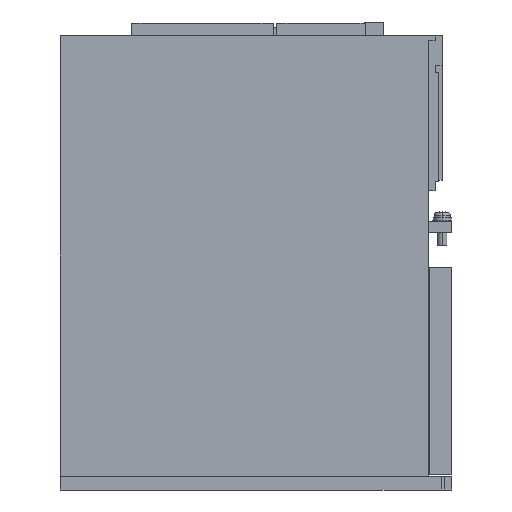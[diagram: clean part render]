
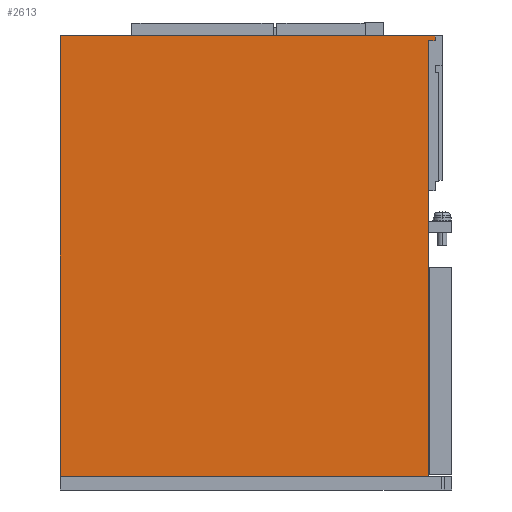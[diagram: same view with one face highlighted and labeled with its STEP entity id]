
A CAD part, left-side view. The second image highlights one B-rep face of the part: STEP entity #2613.
In plain terms, the highlighted planar face has unit normal (-1, 0, 0).
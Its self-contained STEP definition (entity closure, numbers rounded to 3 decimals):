
#956=DIRECTION('',(0.,-1.,0.));
#957=VECTOR('',#956,158.);
#958=CARTESIAN_POINT('',(-42.5,84.,0.));
#959=LINE('',#958,#957);
#1004=DIRECTION('',(0.,0.,1.));
#1005=VECTOR('',#1004,187.);
#1006=CARTESIAN_POINT('',(-42.5,-74.,0.));
#1007=LINE('',#1006,#1005);
#1008=DIRECTION('',(0.,0.,1.));
#1009=VECTOR('',#1008,189.);
#1010=CARTESIAN_POINT('',(-42.5,84.,0.));
#1011=LINE('',#1010,#1009);
#1096=DIRECTION('',(0.,1.,0.));
#1097=VECTOR('',#1096,161.);
#1098=CARTESIAN_POINT('',(-42.5,-77.,189.));
#1099=LINE('',#1098,#1097);
#1600=DIRECTION('',(0.,0.,-1.));
#1601=VECTOR('',#1600,2.);
#1602=CARTESIAN_POINT('',(-42.5,-77.,189.));
#1603=LINE('',#1602,#1601);
#1716=DIRECTION('',(0.,-1.,0.));
#1717=VECTOR('',#1716,3.);
#1718=CARTESIAN_POINT('',(-42.5,-74.,187.));
#1719=LINE('',#1718,#1717);
#2100=CARTESIAN_POINT('',(-42.5,84.,0.));
#2101=CARTESIAN_POINT('',(-42.5,84.,189.));
#2102=VERTEX_POINT('',#2100);
#2103=VERTEX_POINT('',#2101);
#2104=CARTESIAN_POINT('',(-42.5,-74.,0.));
#2105=VERTEX_POINT('',#2104);
#2182=CARTESIAN_POINT('',(-42.5,-77.,189.));
#2183=CARTESIAN_POINT('',(-42.5,-77.,187.));
#2184=VERTEX_POINT('',#2182);
#2185=VERTEX_POINT('',#2183);
#2194=CARTESIAN_POINT('',(-42.5,-74.,187.));
#2196=VERTEX_POINT('',#2194);
#2596=CARTESIAN_POINT('',(-42.5,84.,0.));
#2597=DIRECTION('',(-1.,0.,0.));
#2598=DIRECTION('',(0.,-1.,0.));
#2599=AXIS2_PLACEMENT_3D('',#2596,#2597,#2598);
#2600=PLANE('',#2599);
#2602=ORIENTED_EDGE('',*,*,#2601,.F.);
#2604=ORIENTED_EDGE('',*,*,#2603,.T.);
#2606=ORIENTED_EDGE('',*,*,#2605,.F.);
#2607=ORIENTED_EDGE('',*,*,#2570,.F.);
#2608=ORIENTED_EDGE('',*,*,#2541,.F.);
#2610=ORIENTED_EDGE('',*,*,#2609,.T.);
#2611=EDGE_LOOP('',(#2602,#2604,#2606,#2607,#2608,#2610));
#2612=FACE_OUTER_BOUND('',#2611,.F.);
#2613=ADVANCED_FACE('',(#2612),#2600,.T.);
#2541=EDGE_CURVE('',#2102,#2105,#959,.T.);
#2570=EDGE_CURVE('',#2105,#2196,#1007,.T.);
#2601=EDGE_CURVE('',#2184,#2103,#1099,.T.);
#2603=EDGE_CURVE('',#2184,#2185,#1603,.T.);
#2605=EDGE_CURVE('',#2196,#2185,#1719,.T.);
#2609=EDGE_CURVE('',#2102,#2103,#1011,.T.);
